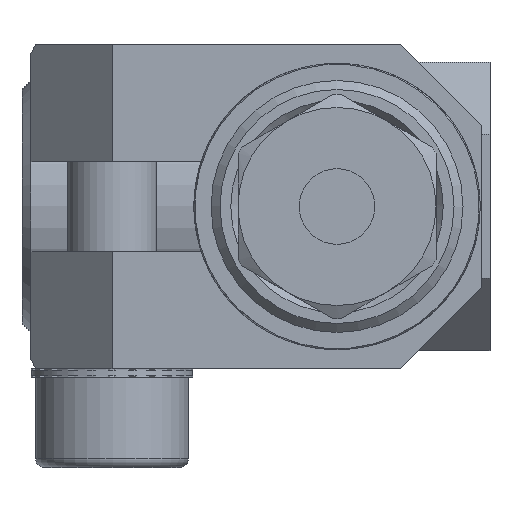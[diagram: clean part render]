
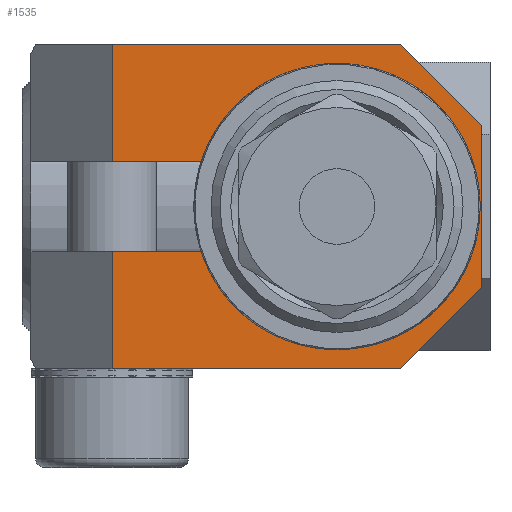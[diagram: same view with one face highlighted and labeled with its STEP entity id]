
A CAD part, front view. The second image highlights one B-rep face of the part: STEP entity #1535.
In plain terms, the highlighted planar face has unit normal (0, -1, 0).
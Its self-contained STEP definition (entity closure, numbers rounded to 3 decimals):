
#1535=ADVANCED_FACE('',(#2778),#2779,.F.);
#2778=FACE_OUTER_BOUND('',#5077,.T.);
#2779=PLANE('',#5078);
#5077=EDGE_LOOP('',(#8367,#8368,#8369,#8370,#8371,#8372,#8373,#8374,#8375,#8376));
#5078=AXIS2_PLACEMENT_3D('',#8377,#8378,#8379);
#8367=ORIENTED_EDGE('',*,*,#9593,.T.);
#8368=ORIENTED_EDGE('',*,*,#9644,.T.);
#8369=ORIENTED_EDGE('',*,*,#9668,.T.);
#8370=ORIENTED_EDGE('',*,*,#9577,.T.);
#8371=ORIENTED_EDGE('',*,*,#9672,.T.);
#8372=ORIENTED_EDGE('',*,*,#9686,.T.);
#8373=ORIENTED_EDGE('',*,*,#9586,.F.);
#8374=ORIENTED_EDGE('',*,*,#9679,.T.);
#8375=ORIENTED_EDGE('',*,*,#9601,.T.);
#8376=ORIENTED_EDGE('',*,*,#9677,.T.);
#8377=CARTESIAN_POINT('',(-12.672,-11.644,-18.0));
#8378=DIRECTION('',(0.,1.0,0.0));
#8379=DIRECTION('',(-1.0,0.,0.0));
#9577=EDGE_CURVE('',#11451,#11448,#11452,.T.);
#9586=EDGE_CURVE('',#11466,#11468,#11469,.T.);
#9593=EDGE_CURVE('',#11481,#11479,#11482,.T.);
#9601=EDGE_CURVE('',#11496,#11494,#11497,.T.);
#9644=EDGE_CURVE('',#11479,#11560,#11562,.T.);
#9668=EDGE_CURVE('',#11560,#11451,#11595,.T.);
#9672=EDGE_CURVE('',#11448,#11598,#11600,.T.);
#9677=EDGE_CURVE('',#11494,#11481,#11605,.F.);
#9679=EDGE_CURVE('',#11466,#11496,#11607,.T.);
#9686=EDGE_CURVE('',#11598,#11468,#11615,.T.);
#11448=VERTEX_POINT('',#14325);
#11451=VERTEX_POINT('',#14329);
#11452=CIRCLE('',#14330,7.0);
#11466=VERTEX_POINT('',#14378);
#11468=VERTEX_POINT('',#14381);
#11469=LINE('',#14382,#14383);
#11479=VERTEX_POINT('',#14396);
#11481=VERTEX_POINT('',#14399);
#11482=LINE('',#14400,#14401);
#11494=VERTEX_POINT('',#14417);
#11496=VERTEX_POINT('',#14420);
#11497=LINE('',#14421,#14422);
#11560=VERTEX_POINT('',#14539);
#11562=LINE('',#14542,#14543);
#11595=LINE('',#14614,#14615);
#11598=VERTEX_POINT('',#14619);
#11600=LINE('',#14622,#14623);
#11605=LINE('',#14629,#14630);
#11607=LINE('',#14632,#14633);
#11615=LINE('',#14641,#14642);
#14325=CARTESIAN_POINT('',(-27.21,-11.644,-11.5));
#14329=CARTESIAN_POINT('',(-27.21,-11.644,-6.5));
#14330=AXIS2_PLACEMENT_3D('',#15998,#15999,#16000);
#14378=CARTESIAN_POINT('',(-17.172,-11.644,-18.0));
#14381=CARTESIAN_POINT('',(-33.172,-11.644,-18.0));
#14382=CARTESIAN_POINT('',(-12.672,-11.644,-18.0));
#14383=VECTOR('',#16007,1.0);
#14396=CARTESIAN_POINT('',(-33.172,-11.644,0.0));
#14399=CARTESIAN_POINT('',(-17.172,-11.644,0.0));
#14400=CARTESIAN_POINT('',(-12.672,-11.644,0.0));
#14401=VECTOR('',#16015,1.0);
#14417=CARTESIAN_POINT('',(-12.672,-11.644,-4.5));
#14420=CARTESIAN_POINT('',(-12.672,-11.644,-13.5));
#14421=CARTESIAN_POINT('',(-12.672,-11.644,-18.0));
#14422=VECTOR('',#16024,1.0);
#14539=CARTESIAN_POINT('',(-33.172,-11.644,-6.5));
#14542=CARTESIAN_POINT('',(-33.172,-11.644,-18.0));
#14543=VECTOR('',#16072,1.0);
#14614=CARTESIAN_POINT('',(-12.672,-11.644,-6.5));
#14615=VECTOR('',#16098,1.0);
#14619=CARTESIAN_POINT('',(-33.172,-11.644,-11.5));
#14622=CARTESIAN_POINT('',(-12.672,-11.644,-11.5));
#14623=VECTOR('',#16101,1.0);
#14629=CARTESIAN_POINT('',(-12.672,-11.644,-4.5));
#14630=VECTOR('',#16106,1.0);
#14632=CARTESIAN_POINT('',(-17.172,-11.644,-18.0));
#14633=VECTOR('',#16107,1.0);
#14641=CARTESIAN_POINT('',(-33.172,-11.644,-18.0));
#14642=VECTOR('',#16111,1.0);
#15998=CARTESIAN_POINT('',(-20.672,-11.644,-9.0));
#15999=DIRECTION('',(0.,1.0,0.0));
#16000=DIRECTION('',(-1.0,0.,0.0));
#16007=DIRECTION('',(-1.0,0.,0.0));
#16015=DIRECTION('',(-1.0,0.,0.0));
#16024=DIRECTION('',(0.0,0.0,1.0));
#16072=DIRECTION('',(0.0,0.0,-1.0));
#16098=DIRECTION('',(1.0,0.,0.0));
#16101=DIRECTION('',(-1.0,0.,0.));
#16106=DIRECTION('',(0.707,0.,-0.707));
#16107=DIRECTION('',(0.707,0.,0.707));
#16111=DIRECTION('',(0.0,0.0,-1.0));
